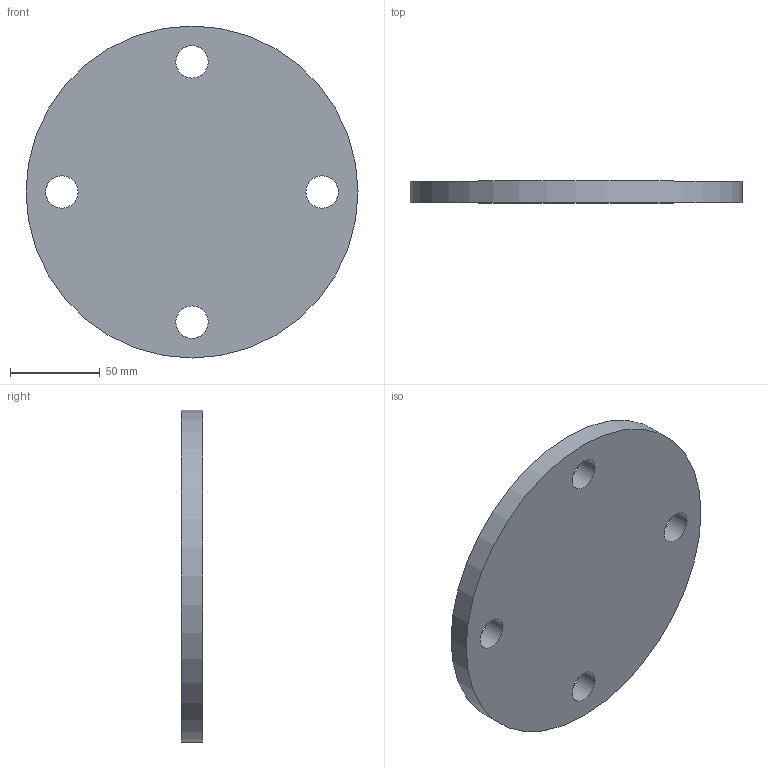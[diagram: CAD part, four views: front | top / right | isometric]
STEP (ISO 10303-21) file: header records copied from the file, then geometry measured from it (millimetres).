
FILE_DESCRIPTION(/* description */ (''),/* implementation_level */ '2;1');
FILE_NAME(/* name */ 'Z:\Geberit\Export\NewStep\365748.stp',/* time_stamp */ '2014-04-02T07:35:14+02:00',/* author */ ('nelson'),/* organization */ (''),/* preprocessor_version */ 'ST-DEVELOPER v15.2',/* originating_system */ 'Autodesk Inventor 2014',/* authorisation */ '');
FILE_SCHEMA (('AUTOMOTIVE_DESIGN { 1 0 10303 214 3 1 1 }'));
Length unit declared in the file: millimetre
Products named in the file (1): 365748
Bounding box: 185 x 12 x 185 mm (x, y, z)
Volume: 310348.5 mm3; surface area: 61413.4 mm2
Topology: 1 solids, 1 shells, 7 faces, 15 edges, 10 vertices
Faces by surface type: cylinder 5, plane 2
Full cylindrical faces by diameter (mm): 18 x4, 185 x1
Entity records: 211 total; most frequent: DIRECTION 36, CARTESIAN_POINT 28, EDGE_LOOP 20, ORIENTED_EDGE 20, AXIS2_PLACEMENT_3D 18, FACE_BOUND 15, CIRCLE 10, VERTEX_POINT 10
